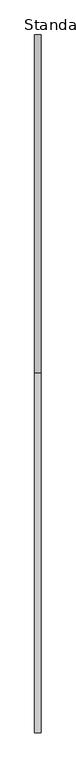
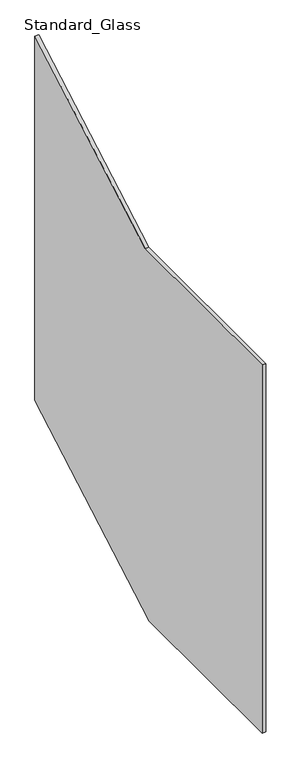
"""IFC4 building model written with IfcOpenShell, lengths in millimetres: railing geometry, Baluster-Landing-Panel-VIVA-VISIO-Upper : Standard_Glass."""

from ifc_helpers import new_model, si_unit, frame, origin, place, context, project, spatial, polyline, outline, extrude, source, transform, mapped, element, save


def standard_glass_13887297(model_context):
    return source(origin(), model_context, "Body", "SweptSolid", [
        extrude(outline(polyline([(-492.404401, 1086.485), (0.0, 1367.8032978), (0.0, 374.65), (-512.062509, 82.1007191), (-1015.5986657, 82.1007191), (-1015.5986657, 1086.485), (-492.404401, 1086.485)])), frame((31.6077292, 0.0, 0.0), z_axis=(1.0, 0.0, 0.0), x_axis=(0.0, 1.0, 0.0)), (0.0, 0.0, 1.0), 9.525),
    ])


if __name__ == "__main__":
    model = new_model("IFC4")
    model_context = context("Model", 3, world=origin())
    ifc_project = project(units=[si_unit("LENGTHUNIT", "METRE", prefix="MILLI")], contexts=[model_context])
    site = spatial("IfcSite", under=ifc_project)
    building = spatial("IfcBuilding", under=site)
    placement = place(None, origin())
    standard_glass_shape = standard_glass_13887297(model_context)
    element("IfcRailing", 1, ObjectType="Baluster-Landing-Panel-VIVA-VISIO-Upper : Standard_Glass", at=placement, inside=building, context=model_context, shape_type="MappedRepresentation", body=[
        mapped(standard_glass_shape, transform((0.0, 0.0, 0.0), x_axis=(1.0, 0.0, 0.0), y_axis=(0.0, 1.0, 0.0), z_axis=(0.0, 0.0, 1.0))),
    ])
    save(model, "model.ifc")
